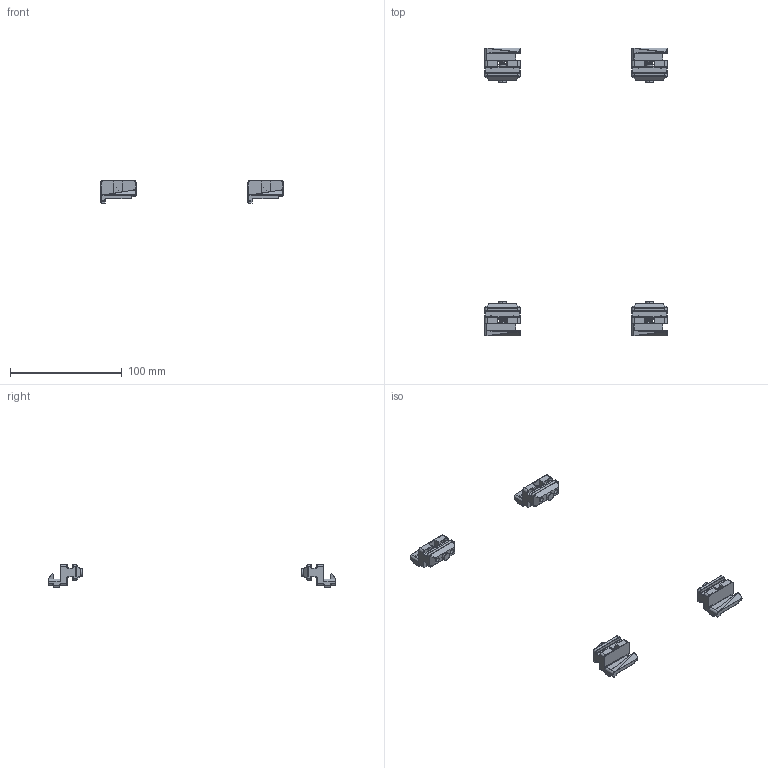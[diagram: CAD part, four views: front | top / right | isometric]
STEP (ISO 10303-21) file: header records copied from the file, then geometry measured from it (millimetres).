
FILE_DESCRIPTION (( 'STEP AP203' ), '1' );
FILE_NAME ('50087_SCHFUEHSTZ88.STEP', '2018-04-26T13:43:55', ( '' ), ( '' ), 'SwSTEP 2.0', 'SolidWorks 2017', '' );
FILE_SCHEMA (( 'CONFIG_CONTROL_DESIGN' ));
Length unit declared in the file: millimetre
Products named in the file (3): 50087-01-0000-00_teil_l; 50087-01-0000-00_teil_r; 50087_SCHFUEHSTZ88
Assembly tree (4 placements, depth 2):
  50087_SCHFUEHSTZ88
    50087-01-0000-00_teil_l  x2
    50087-01-0000-00_teil_r  x2
Bounding box: 163 x 257 x 20.4 mm (x, y, z)
Volume: 27953 mm3; surface area: 21086 mm2
Topology: 12 solids, 12 shells, 1432 faces, 3412 edges, 1992 vertices
Faces by surface type: cylinder 570, plane 360, torus 222, bspline 184, cone 58, sphere 38
Entity records: 31595 total; most frequent: CARTESIAN_POINT 15559, ORIENTED_EDGE 3340, DIRECTION 3266, EDGE_CURVE 1670, AXIS2_PLACEMENT_3D 1276, VERTEX_POINT 976, EDGE_LOOP 742, FACE_OUTER_BOUND 716
